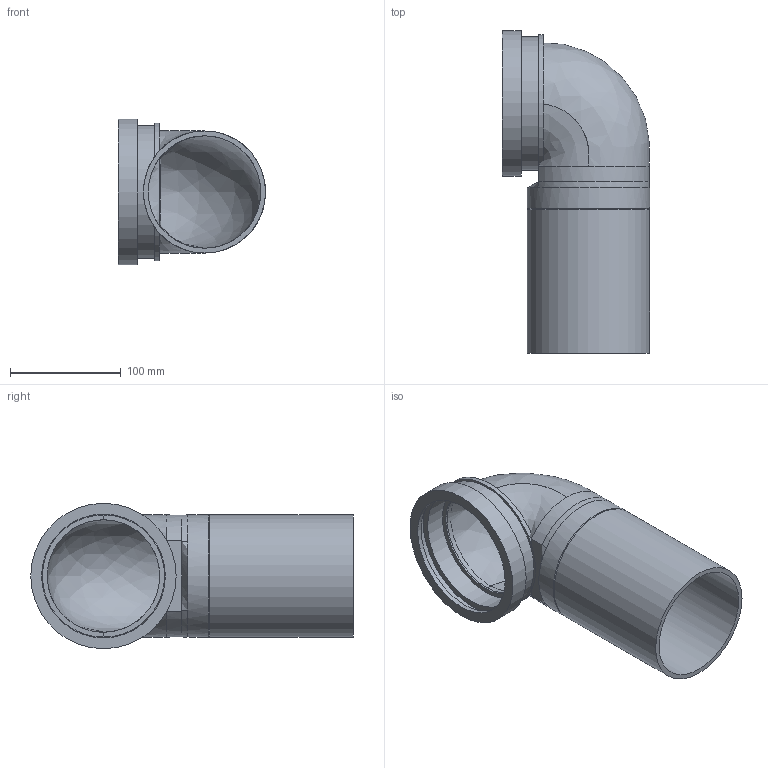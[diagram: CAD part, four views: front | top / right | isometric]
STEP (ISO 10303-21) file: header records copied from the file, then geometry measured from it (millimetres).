
FILE_DESCRIPTION(/* description */ (''),/* implementation_level */ '2;1');
FILE_NAME(/* name */ 'Z:\Geberit\Export\NewStep\367792.stp',/* time_stamp */ '2014-04-02T07:58:28+02:00',/* author */ ('Marco'),/* organization */ (''),/* preprocessor_version */ 'ST-DEVELOPER v15.2',/* originating_system */ 'Autodesk Inventor 2014',/* authorisation */ '');
FILE_SCHEMA (('AUTOMOTIVE_DESIGN { 1 0 10303 214 3 1 1 }'));
Length unit declared in the file: millimetre
Products named in the file (1): 367792
Bounding box: 132.5 x 290.5 x 131 mm (x, y, z)
Volume: 447464.7 mm3; surface area: 216899.2 mm2
Topology: 2 solids, 2 shells, 42 faces, 91 edges, 57 vertices
Faces by surface type: bspline 16, cylinder 12, plane 12, cone 2
Full cylindrical faces by diameter (mm): 101.4 x2, 110 x2, 111.5 x2, 120 x1, 122.4 x1, 124 x1, 131 x1
Entity records: 2163 total; most frequent: CARTESIAN_POINT 1316, ORIENTED_EDGE 166, DIRECTION 126, EDGE_CURVE 77, EDGE_LOOP 62, AXIS2_PLACEMENT_3D 58, VERTEX_POINT 55, STYLED_ITEM 44
